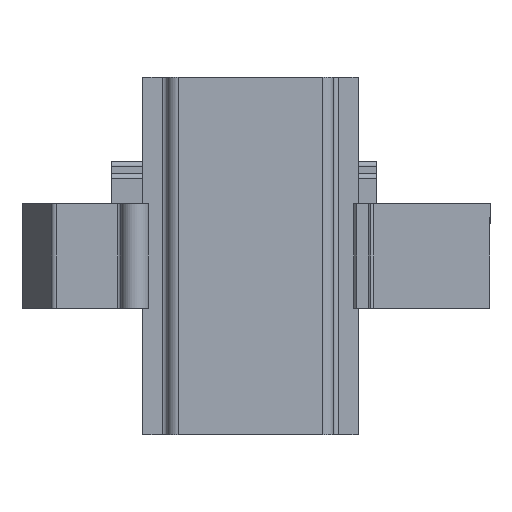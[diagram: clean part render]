
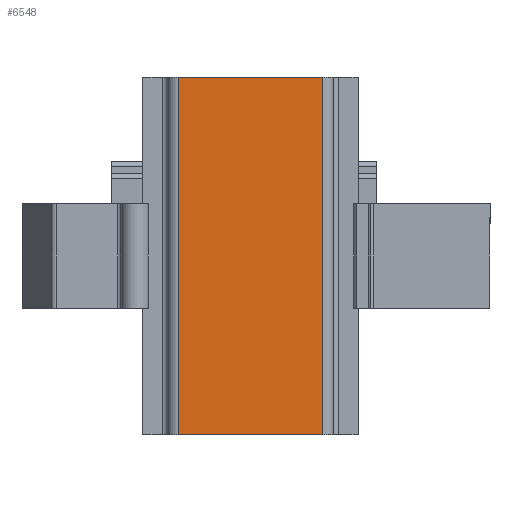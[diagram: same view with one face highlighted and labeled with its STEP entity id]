
A CAD part, front view. The second image highlights one B-rep face of the part: STEP entity #6548.
In plain terms, the highlighted planar face has unit normal (0, -1, 0).
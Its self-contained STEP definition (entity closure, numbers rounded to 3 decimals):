
#852=LINE('',#11053,#1565);
#857=LINE('',#11065,#1570);
#883=LINE('',#11142,#1596);
#892=LINE('',#11162,#1605);
#1565=VECTOR('',#8850,58.);
#1570=VECTOR('',#8861,23.4);
#1596=VECTOR('',#8933,58.);
#1605=VECTOR('',#8956,23.4);
#1864=PLANE('',#7130);
#2259=FACE_OUTER_BOUND('',#2654,.T.);
#2654=EDGE_LOOP('',(#6076,#6077,#6078,#6079));
#3387=VERTEX_POINT('',#11050);
#3388=VERTEX_POINT('',#11052);
#3392=VERTEX_POINT('',#11064);
#3419=VERTEX_POINT('',#11138);
#4261=EDGE_CURVE('',#3387,#3388,#852,.T.);
#4267=EDGE_CURVE('',#3392,#3388,#857,.T.);
#4306=EDGE_CURVE('',#3392,#3419,#883,.T.);
#4316=EDGE_CURVE('',#3387,#3419,#892,.T.);
#6076=ORIENTED_EDGE('',*,*,#4261,.F.);
#6077=ORIENTED_EDGE('',*,*,#4316,.T.);
#6078=ORIENTED_EDGE('',*,*,#4306,.F.);
#6079=ORIENTED_EDGE('',*,*,#4267,.T.);
#6548=ADVANCED_FACE('',(#2259),#1864,.T.);
#7130=AXIS2_PLACEMENT_3D('',#11161,#8954,#8955);
#8850=DIRECTION('',(0.,0.,-1.));
#8861=DIRECTION('',(1.,0.,0.));
#8933=DIRECTION('',(0.,0.,1.));
#8954=DIRECTION('center_axis',(0.,-1.,0.));
#8955=DIRECTION('ref_axis',(0.,0.,-1.));
#8956=DIRECTION('',(-1.,0.,0.));
#11050=CARTESIAN_POINT('',(24.683,-17.926,29.));
#11052=CARTESIAN_POINT('',(24.683,-17.926,-29.));
#11053=CARTESIAN_POINT('',(24.683,-17.926,0.));
#11064=CARTESIAN_POINT('',(1.283,-17.926,-29.));
#11065=CARTESIAN_POINT('',(12.983,-17.926,-29.));
#11138=CARTESIAN_POINT('',(1.283,-17.926,29.));
#11142=CARTESIAN_POINT('',(1.283,-17.926,0.));
#11161=CARTESIAN_POINT('Origin',(12.983,-17.926,0.));
#11162=CARTESIAN_POINT('',(-0.517,-17.926,29.));
